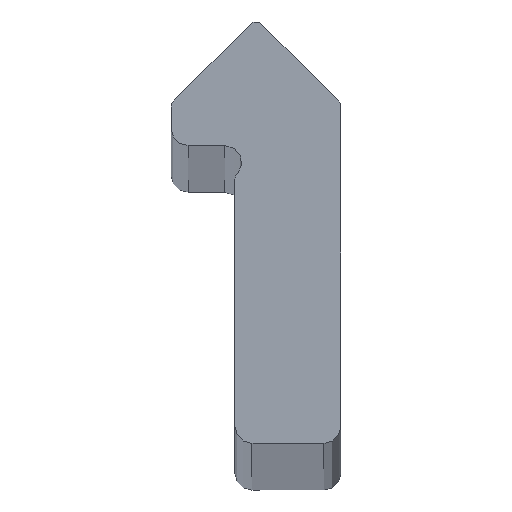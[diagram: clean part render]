
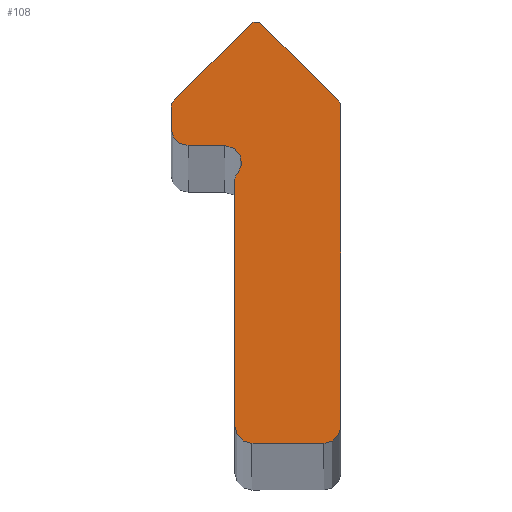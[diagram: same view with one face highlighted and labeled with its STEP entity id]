
A CAD part, top view. The second image highlights one B-rep face of the part: STEP entity #108.
In plain terms, the highlighted planar face has unit normal (0, 0, 1).
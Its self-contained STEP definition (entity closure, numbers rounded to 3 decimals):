
#108=ADVANCED_FACE('',(#141),#142,.F.);
#141=FACE_OUTER_BOUND('',#175,.T.);
#142=PLANE('',#176);
#175=EDGE_LOOP('',(#295,#296,#297,#298,#299,#300,#301,#302,#303,#304,#305,#306,#307,#308,#309));
#176=AXIS2_PLACEMENT_3D('',#310,#311,#312);
#295=ORIENTED_EDGE('',*,*,#347,.F.);
#296=ORIENTED_EDGE('',*,*,#330,.T.);
#297=ORIENTED_EDGE('',*,*,#345,.F.);
#298=ORIENTED_EDGE('',*,*,#357,.F.);
#299=ORIENTED_EDGE('',*,*,#352,.F.);
#300=ORIENTED_EDGE('',*,*,#350,.F.);
#301=ORIENTED_EDGE('',*,*,#364,.F.);
#302=ORIENTED_EDGE('',*,*,#361,.F.);
#303=ORIENTED_EDGE('',*,*,#355,.F.);
#304=ORIENTED_EDGE('',*,*,#363,.F.);
#305=ORIENTED_EDGE('',*,*,#325,.F.);
#306=ORIENTED_EDGE('',*,*,#322,.F.);
#307=ORIENTED_EDGE('',*,*,#329,.F.);
#308=ORIENTED_EDGE('',*,*,#359,.F.);
#309=ORIENTED_EDGE('',*,*,#360,.F.);
#310=CARTESIAN_POINT('',(-2.072,7.315,1000.0));
#311=DIRECTION('',(0.0,0.0,-1.0));
#312=DIRECTION('',(0.0,-1.0,0.0));
#322=EDGE_CURVE('',#368,#370,#371,.T.);
#325=EDGE_CURVE('',#370,#375,#376,.T.);
#329=EDGE_CURVE('',#380,#368,#382,.T.);
#330=EDGE_CURVE('',#383,#384,#385,.T.);
#345=EDGE_CURVE('',#411,#384,#412,.T.);
#347=EDGE_CURVE('',#383,#414,#415,.T.);
#350=EDGE_CURVE('',#417,#419,#420,.T.);
#352=EDGE_CURVE('',#419,#422,#423,.T.);
#355=EDGE_CURVE('',#425,#427,#428,.T.);
#357=EDGE_CURVE('',#422,#411,#430,.T.);
#359=EDGE_CURVE('',#431,#380,#433,.T.);
#360=EDGE_CURVE('',#414,#431,#434,.T.);
#361=EDGE_CURVE('',#427,#435,#436,.T.);
#363=EDGE_CURVE('',#375,#425,#438,.T.);
#364=EDGE_CURVE('',#435,#417,#439,.T.);
#368=VERTEX_POINT('',#444);
#370=VERTEX_POINT('',#447);
#371=LINE('',#448,#449);
#375=VERTEX_POINT('',#454);
#376=CIRCLE('',#455,0.635);
#380=VERTEX_POINT('',#460);
#382=CIRCLE('',#463,0.635);
#383=VERTEX_POINT('',#464);
#384=VERTEX_POINT('',#465);
#385=CIRCLE('',#466,0.3);
#411=VERTEX_POINT('',#500);
#412=LINE('',#501,#502);
#414=VERTEX_POINT('',#505);
#415=LINE('',#506,#507);
#417=VERTEX_POINT('',#510);
#419=VERTEX_POINT('',#513);
#420=CIRCLE('',#514,0.635);
#422=VERTEX_POINT('',#517);
#423=LINE('',#518,#519);
#425=VERTEX_POINT('',#522);
#427=VERTEX_POINT('',#525);
#428=CIRCLE('',#526,0.254);
#430=CIRCLE('',#529,0.318);
#431=VERTEX_POINT('',#530);
#433=LINE('',#533,#534);
#434=CIRCLE('',#535,0.318);
#435=VERTEX_POINT('',#536);
#436=CIRCLE('',#537,0.635);
#438=LINE('',#540,#541);
#439=LINE('',#542,#543);
#444=CARTESIAN_POINT('',(3.325,-5.254,1000.0));
#447=CARTESIAN_POINT('',(0.635,-5.254,1000.0));
#448=CARTESIAN_POINT('',(3.325,-5.254,1000.0));
#449=VECTOR('',#546,1.0);
#454=CARTESIAN_POINT('',(0.,-4.619,1000.0));
#455=AXIS2_PLACEMENT_3D('',#551,#552,#553);
#460=CARTESIAN_POINT('',(3.96,-4.619,1000.0));
#463=AXIS2_PLACEMENT_3D('',#559,#560,#561);
#464=CARTESIAN_POINT('',(1.002,10.414,1000.0));
#465=CARTESIAN_POINT('',(0.578,10.414,1000.0));
#466=AXIS2_PLACEMENT_3D('',#562,#563,#564);
#500=CARTESIAN_POINT('',(-2.297,7.539,1000.0));
#501=CARTESIAN_POINT('',(-2.297,7.539,1000.0));
#502=VECTOR('',#591,1.0);
#505=CARTESIAN_POINT('',(3.867,7.549,1000.0));
#506=CARTESIAN_POINT('',(0.79,10.626,1000.0));
#507=VECTOR('',#593,1.0);
#510=CARTESIAN_POINT('',(-1.755,5.876,1000.0));
#513=CARTESIAN_POINT('',(-2.39,6.511,1000.0));
#514=AXIS2_PLACEMENT_3D('',#596,#597,#598);
#517=CARTESIAN_POINT('',(-2.39,7.315,1000.0));
#518=CARTESIAN_POINT('',(-2.39,6.511,1000.0));
#519=VECTOR('',#600,1.0);
#522=CARTESIAN_POINT('',(0.,4.619,1000.0));
#525=CARTESIAN_POINT('',(0.073,4.797,1000.0));
#526=AXIS2_PLACEMENT_3D('',#603,#604,#605);
#529=AXIS2_PLACEMENT_3D('',#607,#608,#609);
#530=CARTESIAN_POINT('',(3.96,7.325,1000.0));
#533=CARTESIAN_POINT('',(3.96,7.325,1000.0));
#534=VECTOR('',#611,1.0);
#535=AXIS2_PLACEMENT_3D('',#612,#613,#614);
#536=CARTESIAN_POINT('',(-0.381,5.876,1000.0));
#537=AXIS2_PLACEMENT_3D('',#615,#616,#617);
#540=CARTESIAN_POINT('',(0.,-4.619,1000.0));
#541=VECTOR('',#619,1.0);
#542=CARTESIAN_POINT('',(-0.381,5.876,1000.0));
#543=VECTOR('',#620,1.0);
#546=DIRECTION('',(-1.0,0.0,0.0));
#551=CARTESIAN_POINT('',(0.635,-4.619,1000.0));
#552=DIRECTION('',(0.0,0.0,-1.0));
#553=DIRECTION('',(1.0,0.,0.0));
#559=CARTESIAN_POINT('',(3.325,-4.619,1000.0));
#560=DIRECTION('',(0.0,0.0,-1.0));
#561=DIRECTION('',(1.0,0.,0.0));
#562=CARTESIAN_POINT('',(0.79,10.202,1000.0));
#563=DIRECTION('',(0.0,0.0,1.0));
#564=DIRECTION('',(-1.0,0.0,0.0));
#591=DIRECTION('',(0.707,0.707,0.0));
#593=DIRECTION('',(0.707,-0.707,0.0));
#596=CARTESIAN_POINT('',(-1.755,6.511,1000.0));
#597=DIRECTION('',(0.0,0.0,-1.0));
#598=DIRECTION('',(1.0,0.,0.0));
#600=DIRECTION('',(0.,1.0,0.0));
#603=CARTESIAN_POINT('',(0.254,4.619,1000.0));
#604=DIRECTION('',(0.0,0.0,-1.0));
#605=DIRECTION('',(1.0,0.,0.0));
#607=CARTESIAN_POINT('',(-2.072,7.315,1000.0));
#608=DIRECTION('',(0.0,0.0,-1.0));
#609=DIRECTION('',(1.0,0.,0.0));
#611=DIRECTION('',(0.0,-1.0,0.0));
#612=CARTESIAN_POINT('',(3.643,7.325,1000.0));
#613=DIRECTION('',(0.0,0.0,-1.0));
#614=DIRECTION('',(1.0,0.,0.0));
#615=CARTESIAN_POINT('',(-0.381,5.241,1000.0));
#616=DIRECTION('',(0.0,0.0,1.0));
#617=DIRECTION('',(1.0,0.,0.0));
#619=DIRECTION('',(0.,1.0,0.0));
#620=DIRECTION('',(-1.0,0.0,0.0));
